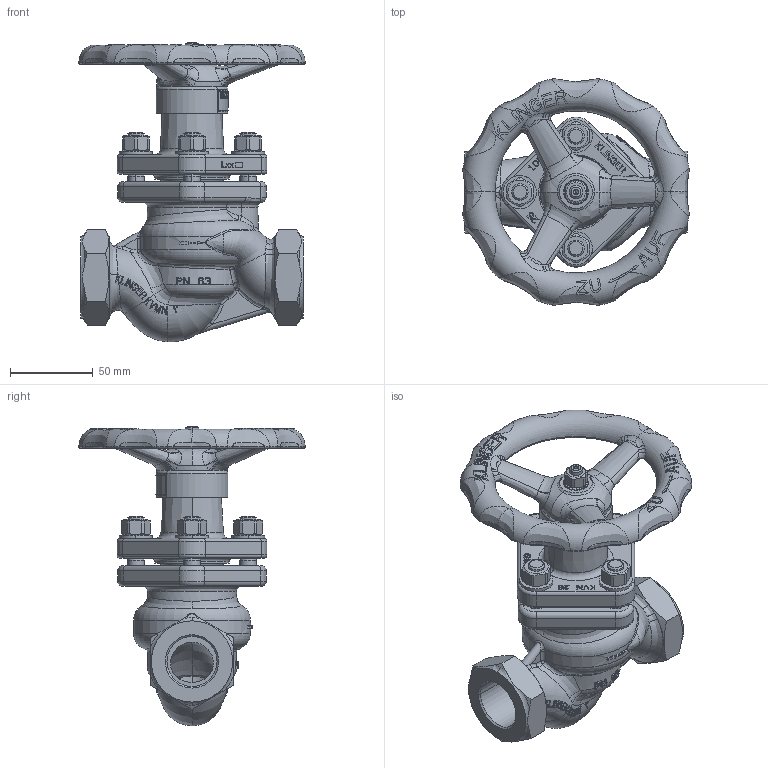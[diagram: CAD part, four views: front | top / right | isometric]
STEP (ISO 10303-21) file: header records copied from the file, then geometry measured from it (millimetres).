
FILE_DESCRIPTION((''),'2;1');
FILE_NAME('KVMN-G1-S-----P063PGG_SW0001','2015-07-08T',('jeitlers'),('RAND'),'PRO/ENGINEER BY PARAMETRIC TECHNOLOGY CORPORATION, 2013410','PRO/ENGINEER BY PARAMETRIC TECHNOLOGY CORPORATION, 2013410','');
FILE_SCHEMA(('CONFIG_CONTROL_DESIGN'));
Products named in the file (1): KVMN-G1-S-----P063PGG_SW0001
Bounding box: 137.21 x 137.21 x 181.5 mm (x, y, z)
Volume: 462937.3 mm3; surface area: 143119.6 mm2
Topology: 3 solids, 3 shells, 2705 faces, 7327 edges, 4686 vertices
Faces by surface type: plane 1601, bspline 474, cylinder 328, torus 154, cone 122, extrusion 20, sphere 6
Entity records: 165982 total; most frequent: CARTESIAN_POINT 103988, ORIENTED_EDGE 14646, DIRECTION 10312, EDGE_CURVE 7323, VERTEX_POINT 4686, AXIS2_PLACEMENT_3D 3505, VECTOR 3302, LINE 3282
